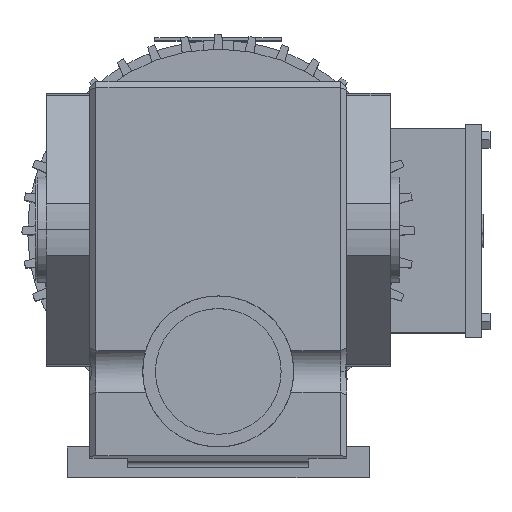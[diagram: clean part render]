
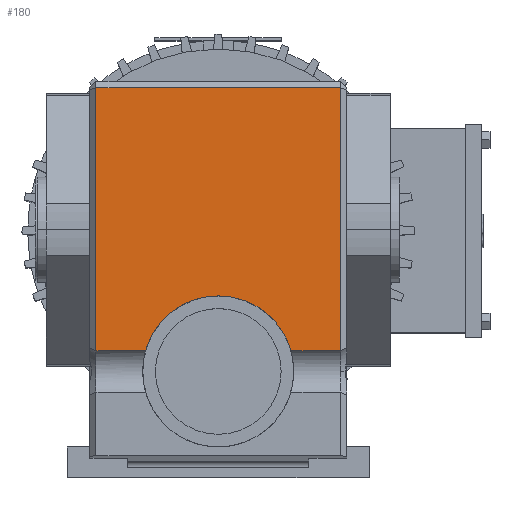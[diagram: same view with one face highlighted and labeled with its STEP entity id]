
A CAD part, top view. The second image highlights one B-rep face of the part: STEP entity #180.
In plain terms, the highlighted planar face has unit normal (0, 0, 1).
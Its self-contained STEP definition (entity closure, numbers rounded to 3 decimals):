
#41 = VERTEX_POINT('',#42);
#42 = CARTESIAN_POINT('',(40.5,-40.126,130.5));
#52 = PLANE('',#53);
#53 = AXIS2_PLACEMENT_3D('',#54,#55,#56);
#54 = CARTESIAN_POINT('',(40.5,47.,130.5));
#55 = DIRECTION('',(0.707,0.,0.707)
  );
#56 = DIRECTION('',(0.707,0.,-0.707));
#128 = VERTEX_POINT('',#129);
#129 = CARTESIAN_POINT('',(40.5,47.,130.5));
#155 = EDGE_CURVE('',#41,#128,#156,.T.);
#156 = SURFACE_CURVE('',#157,(#161,#168),.PCURVE_S1.);
#157 = LINE('',#158,#159);
#158 = CARTESIAN_POINT('',(40.5,47.,130.5));
#159 = VECTOR('',#160,1.);
#160 = DIRECTION('',(0.,1.,0.));
#161 = PCURVE('',#52,#162);
#162 = DEFINITIONAL_REPRESENTATION('',(#163),#167);
#163 = LINE('',#164,#165);
#164 = CARTESIAN_POINT('',(0.,0.));
#165 = VECTOR('',#166,1.);
#166 = DIRECTION('',(0.,1.));
#167 = ( GEOMETRIC_REPRESENTATION_CONTEXT(2) 
PARAMETRIC_REPRESENTATION_CONTEXT() REPRESENTATION_CONTEXT('2D SPACE',''
  ) );
#168 = PCURVE('',#169,#174);
#169 = PLANE('',#170);
#170 = AXIS2_PLACEMENT_3D('',#171,#172,#173);
#171 = CARTESIAN_POINT('',(50.,47.,130.5));
#172 = DIRECTION('',(0.,0.,-1.));
#173 = DIRECTION('',(0.,1.,0.));
#174 = DEFINITIONAL_REPRESENTATION('',(#175),#179);
#175 = LINE('',#176,#177);
#176 = CARTESIAN_POINT('',(0.,-9.5));
#177 = VECTOR('',#178,1.);
#178 = DIRECTION('',(1.,0.));
#179 = ( GEOMETRIC_REPRESENTATION_CONTEXT(2) 
PARAMETRIC_REPRESENTATION_CONTEXT() REPRESENTATION_CONTEXT('2D SPACE',''
  ) );
#180 = ADVANCED_FACE('',(#181),#169,.F.);
#181 = FACE_BOUND('',#182,.T.);
#182 = EDGE_LOOP('',(#183,#211,#239,#266,#298,#323));
#183 = ORIENTED_EDGE('',*,*,#184,.T.);
#184 = EDGE_CURVE('',#128,#185,#187,.T.);
#185 = VERTEX_POINT('',#186);
#186 = CARTESIAN_POINT('',(-40.5,47.,130.5));
#187 = SURFACE_CURVE('',#188,(#192,#199),.PCURVE_S1.);
#188 = LINE('',#189,#190);
#189 = CARTESIAN_POINT('',(50.,47.,130.5));
#190 = VECTOR('',#191,1.);
#191 = DIRECTION('',(-1.,0.,0.));
#192 = PCURVE('',#169,#193);
#193 = DEFINITIONAL_REPRESENTATION('',(#194),#198);
#194 = LINE('',#195,#196);
#195 = CARTESIAN_POINT('',(0.,0.));
#196 = VECTOR('',#197,1.);
#197 = DIRECTION('',(0.,-1.));
#198 = ( GEOMETRIC_REPRESENTATION_CONTEXT(2) 
PARAMETRIC_REPRESENTATION_CONTEXT() REPRESENTATION_CONTEXT('2D SPACE',''
  ) );
#199 = PCURVE('',#200,#205);
#200 = PLANE('',#201);
#201 = AXIS2_PLACEMENT_3D('',#202,#203,#204);
#202 = CARTESIAN_POINT('',(50.,49.,128.5));
#203 = DIRECTION('',(0.,-0.707,-0.707));
#204 = DIRECTION('',(0.,0.707,-0.707));
#205 = DEFINITIONAL_REPRESENTATION('',(#206),#210);
#206 = LINE('',#207,#208);
#207 = CARTESIAN_POINT('',(-2.828,0.));
#208 = VECTOR('',#209,1.);
#209 = DIRECTION('',(0.,-1.));
#210 = ( GEOMETRIC_REPRESENTATION_CONTEXT(2) 
PARAMETRIC_REPRESENTATION_CONTEXT() REPRESENTATION_CONTEXT('2D SPACE',''
  ) );
#211 = ORIENTED_EDGE('',*,*,#212,.T.);
#212 = EDGE_CURVE('',#185,#213,#215,.T.);
#213 = VERTEX_POINT('',#214);
#214 = CARTESIAN_POINT('',(-40.5,-40.126,130.5));
#215 = SURFACE_CURVE('',#216,(#220,#227),.PCURVE_S1.);
#216 = LINE('',#217,#218);
#217 = CARTESIAN_POINT('',(-40.5,-40.126,130.5));
#218 = VECTOR('',#219,1.);
#219 = DIRECTION('',(0.,-1.,0.));
#220 = PCURVE('',#169,#221);
#221 = DEFINITIONAL_REPRESENTATION('',(#222),#226);
#222 = LINE('',#223,#224);
#223 = CARTESIAN_POINT('',(-87.126,-90.5));
#224 = VECTOR('',#225,1.);
#225 = DIRECTION('',(-1.,0.));
#226 = ( GEOMETRIC_REPRESENTATION_CONTEXT(2) 
PARAMETRIC_REPRESENTATION_CONTEXT() REPRESENTATION_CONTEXT('2D SPACE',''
  ) );
#227 = PCURVE('',#228,#233);
#228 = PLANE('',#229);
#229 = AXIS2_PLACEMENT_3D('',#230,#231,#232);
#230 = CARTESIAN_POINT('',(-40.5,47.,130.5));
#231 = DIRECTION('',(-0.707,0.,0.707)
  );
#232 = DIRECTION('',(0.707,0.,0.707));
#233 = DEFINITIONAL_REPRESENTATION('',(#234),#238);
#234 = LINE('',#235,#236);
#235 = CARTESIAN_POINT('',(0.,-87.126));
#236 = VECTOR('',#237,1.);
#237 = DIRECTION('',(0.,-1.));
#238 = ( GEOMETRIC_REPRESENTATION_CONTEXT(2) 
PARAMETRIC_REPRESENTATION_CONTEXT() REPRESENTATION_CONTEXT('2D SPACE',''
  ) );
#239 = ORIENTED_EDGE('',*,*,#240,.F.);
#240 = EDGE_CURVE('',#241,#213,#243,.T.);
#241 = VERTEX_POINT('',#242);
#242 = CARTESIAN_POINT('',(-24.036,-40.126,130.5));
#243 = SURFACE_CURVE('',#244,(#248,#255),.PCURVE_S1.);
#244 = LINE('',#245,#246);
#245 = CARTESIAN_POINT('',(50.,-40.126,130.5));
#246 = VECTOR('',#247,1.);
#247 = DIRECTION('',(-1.,0.,0.));
#248 = PCURVE('',#169,#249);
#249 = DEFINITIONAL_REPRESENTATION('',(#250),#254);
#250 = LINE('',#251,#252);
#251 = CARTESIAN_POINT('',(-87.126,0.));
#252 = VECTOR('',#253,1.);
#253 = DIRECTION('',(0.,-1.));
#254 = ( GEOMETRIC_REPRESENTATION_CONTEXT(2) 
PARAMETRIC_REPRESENTATION_CONTEXT() REPRESENTATION_CONTEXT('2D SPACE',''
  ) );
#255 = PCURVE('',#256,#261);
#256 = CYLINDRICAL_SURFACE('',#257,8.5);
#257 = AXIS2_PLACEMENT_3D('',#258,#259,#260);
#258 = CARTESIAN_POINT('',(50.,-47.,135.5));
#259 = DIRECTION('',(-1.,0.,0.));
#260 = DIRECTION('',(0.,0.,1.));
#261 = DEFINITIONAL_REPRESENTATION('',(#262),#265);
#262 = B_SPLINE_CURVE_WITH_KNOTS('',1,(#263,#264),.UNSPECIFIED.,.F.,.F.,
  (2,2),(74.036,90.5),.PIECEWISE_BEZIER_KNOTS.);
#263 = CARTESIAN_POINT('',(2.2,74.036));
#264 = CARTESIAN_POINT('',(2.2,90.5));
#265 = ( GEOMETRIC_REPRESENTATION_CONTEXT(2) 
PARAMETRIC_REPRESENTATION_CONTEXT() REPRESENTATION_CONTEXT('2D SPACE',''
  ) );
#266 = ORIENTED_EDGE('',*,*,#267,.F.);
#267 = EDGE_CURVE('',#268,#241,#270,.T.);
#268 = VERTEX_POINT('',#269);
#269 = CARTESIAN_POINT('',(24.036,-40.126,130.5));
#270 = SURFACE_CURVE('',#271,(#276,#287),.PCURVE_S1.);
#271 = CIRCLE('',#272,25.);
#272 = AXIS2_PLACEMENT_3D('',#273,#274,#275);
#273 = CARTESIAN_POINT('',(0.,-47.,130.5));
#274 = DIRECTION('',(0.,0.,1.));
#275 = DIRECTION('',(0.,1.,0.));
#276 = PCURVE('',#169,#277);
#277 = DEFINITIONAL_REPRESENTATION('',(#278),#286);
#278 = ( BOUNDED_CURVE() B_SPLINE_CURVE(2,(#279,#280,#281,#282,#283,#284
,#285),.UNSPECIFIED.,.F.,.F.) B_SPLINE_CURVE_WITH_KNOTS((1,2,2,2,2,1),(
    -2.094,0.,2.094,4.189,6.283,
8.378),.UNSPECIFIED.) CURVE() GEOMETRIC_REPRESENTATION_ITEM() 
RATIONAL_B_SPLINE_CURVE((1.,0.5,1.,0.5,1.,0.5,1.)) REPRESENTATION_ITEM(
  '') );
#279 = CARTESIAN_POINT('',(-69.,-50.));
#280 = CARTESIAN_POINT('',(-69.,-93.301));
#281 = CARTESIAN_POINT('',(-106.5,-71.651));
#282 = CARTESIAN_POINT('',(-144.,-50.));
#283 = CARTESIAN_POINT('',(-106.5,-28.349));
#284 = CARTESIAN_POINT('',(-69.,-6.699));
#285 = CARTESIAN_POINT('',(-69.,-50.));
#286 = ( GEOMETRIC_REPRESENTATION_CONTEXT(2) 
PARAMETRIC_REPRESENTATION_CONTEXT() REPRESENTATION_CONTEXT('2D SPACE',''
  ) );
#287 = PCURVE('',#288,#293);
#288 = CYLINDRICAL_SURFACE('',#289,25.);
#289 = AXIS2_PLACEMENT_3D('',#290,#291,#292);
#290 = CARTESIAN_POINT('',(0.,-47.,135.5));
#291 = DIRECTION('',(0.,0.,-1.));
#292 = DIRECTION('',(-1.,0.,0.));
#293 = DEFINITIONAL_REPRESENTATION('',(#294),#297);
#294 = B_SPLINE_CURVE_WITH_KNOTS('',1,(#295,#296),.UNSPECIFIED.,.F.,.F.,
  (2,2),(4.991,7.575),.PIECEWISE_BEZIER_KNOTS.);
#295 = CARTESIAN_POINT('',(2.863,5.));
#296 = CARTESIAN_POINT('',(0.279,5.));
#297 = ( GEOMETRIC_REPRESENTATION_CONTEXT(2) 
PARAMETRIC_REPRESENTATION_CONTEXT() REPRESENTATION_CONTEXT('2D SPACE',''
  ) );
#298 = ORIENTED_EDGE('',*,*,#299,.F.);
#299 = EDGE_CURVE('',#41,#268,#300,.T.);
#300 = SURFACE_CURVE('',#301,(#305,#312),.PCURVE_S1.);
#301 = LINE('',#302,#303);
#302 = CARTESIAN_POINT('',(50.,-40.126,130.5));
#303 = VECTOR('',#304,1.);
#304 = DIRECTION('',(-1.,0.,0.));
#305 = PCURVE('',#169,#306);
#306 = DEFINITIONAL_REPRESENTATION('',(#307),#311);
#307 = LINE('',#308,#309);
#308 = CARTESIAN_POINT('',(-87.126,0.));
#309 = VECTOR('',#310,1.);
#310 = DIRECTION('',(0.,-1.));
#311 = ( GEOMETRIC_REPRESENTATION_CONTEXT(2) 
PARAMETRIC_REPRESENTATION_CONTEXT() REPRESENTATION_CONTEXT('2D SPACE',''
  ) );
#312 = PCURVE('',#313,#318);
#313 = CYLINDRICAL_SURFACE('',#314,8.5);
#314 = AXIS2_PLACEMENT_3D('',#315,#316,#317);
#315 = CARTESIAN_POINT('',(50.,-47.,135.5));
#316 = DIRECTION('',(-1.,0.,0.));
#317 = DIRECTION('',(0.,0.,1.));
#318 = DEFINITIONAL_REPRESENTATION('',(#319),#322);
#319 = B_SPLINE_CURVE_WITH_KNOTS('',1,(#320,#321),.UNSPECIFIED.,.F.,.F.,
  (2,2),(9.5,25.964),.PIECEWISE_BEZIER_KNOTS.);
#320 = CARTESIAN_POINT('',(2.2,9.5));
#321 = CARTESIAN_POINT('',(2.2,25.964));
#322 = ( GEOMETRIC_REPRESENTATION_CONTEXT(2) 
PARAMETRIC_REPRESENTATION_CONTEXT() REPRESENTATION_CONTEXT('2D SPACE',''
  ) );
#323 = ORIENTED_EDGE('',*,*,#155,.T.);
